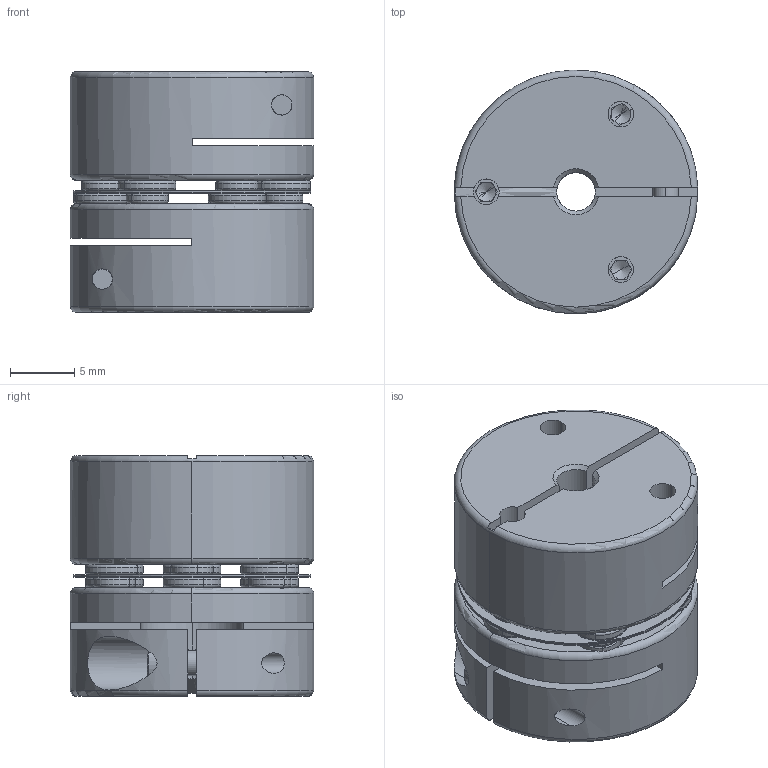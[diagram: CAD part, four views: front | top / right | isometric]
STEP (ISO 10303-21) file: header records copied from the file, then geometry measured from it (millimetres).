
FILE_DESCRIPTION (( 'STEP AP203' ), '1' );
FILE_NAME ('SADS-19C-3-8.STEP', '2019-10-22T09:39:10', ( '' ), ( '' ), 'SwSTEP 2.0', 'SolidWorks 2017', '' );
FILE_SCHEMA (( 'CONFIG_CONTROL_DESIGN' ));
Length unit declared in the file: metre
Products named in the file (1): SADS-19C-3-8
Bounding box: 19 x 19 x 18.8 mm (x, y, z)
Volume: 3926.5 mm3; surface area: 5105 mm2
Topology: 24 solids, 24 shells, 614 faces, 1398 edges, 820 vertices
Faces by surface type: cylinder 196, plane 180, cone 130, torus 102, bspline 6
Entity records: 18277 total; most frequent: CARTESIAN_POINT 3999, DIRECTION 3266, ORIENTED_EDGE 2748, EDGE_CURVE 1374, AXIS2_PLACEMENT_3D 1353, VERTEX_POINT 820, CIRCLE 744, EDGE_LOOP 714
